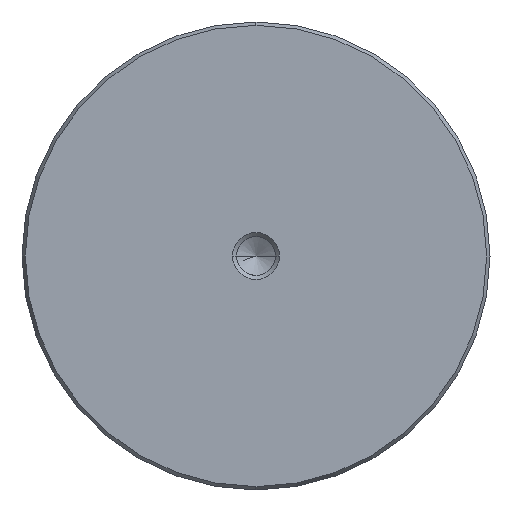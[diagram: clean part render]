
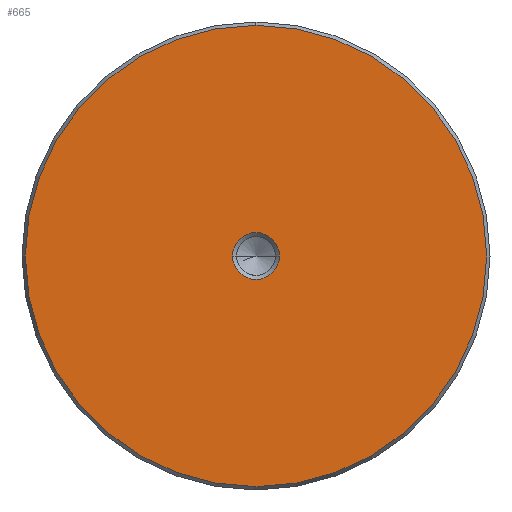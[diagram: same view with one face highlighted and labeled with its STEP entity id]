
A CAD part, left-side view. The second image highlights one B-rep face of the part: STEP entity #665.
In plain terms, the highlighted planar face has unit normal (-1, 0, 0).
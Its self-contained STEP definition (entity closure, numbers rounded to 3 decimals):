
#579=CARTESIAN_POINT('Vertex',(0.,0.,-39.423)) ;
#582=CARTESIAN_POINT('Axis2P3D Location',(0.,0.,0.)) ;
#586=CARTESIAN_POINT('Vertex',(0.,39.423,0.)) ;
#589=CARTESIAN_POINT('Axis2P3D Location',(0.,0.,0.)) ;
#593=CARTESIAN_POINT('Vertex',(0.,0.,39.423)) ;
#615=CARTESIAN_POINT('Axis2P3D Location',(0.,0.,0.)) ;
#619=CARTESIAN_POINT('Vertex',(0.,-39.423,0.)) ;
#622=CARTESIAN_POINT('Axis2P3D Location',(0.,0.,0.)) ;
#636=CARTESIAN_POINT('Axis2P3D Location',(0.,0.,0.)) ;
#647=CARTESIAN_POINT('Axis2P3D Location',(0.,0.,0.)) ;
#651=CARTESIAN_POINT('Vertex',(0.,4.,0.)) ;
#653=CARTESIAN_POINT('Vertex',(0.,-4.,0.)) ;
#656=CARTESIAN_POINT('Axis2P3D Location',(0.,0.,0.)) ;
#583=DIRECTION('Axis2P3D Direction',(1.,0.,-0.)) ;
#590=DIRECTION('Axis2P3D Direction',(1.,0.,-0.)) ;
#616=DIRECTION('Axis2P3D Direction',(1.,0.,-0.)) ;
#623=DIRECTION('Axis2P3D Direction',(1.,0.,-0.)) ;
#637=DIRECTION('Axis2P3D Direction',(1.,0.,-0.)) ;
#638=DIRECTION('Axis2P3D XDirection',(-0.,0.,-1.)) ;
#648=DIRECTION('Axis2P3D Direction',(1.,0.,-0.)) ;
#657=DIRECTION('Axis2P3D Direction',(1.,0.,-0.)) ;
#584=AXIS2_PLACEMENT_3D('Circle Axis2P3D',#582,#583,$) ;
#591=AXIS2_PLACEMENT_3D('Circle Axis2P3D',#589,#590,$) ;
#617=AXIS2_PLACEMENT_3D('Circle Axis2P3D',#615,#616,$) ;
#624=AXIS2_PLACEMENT_3D('Circle Axis2P3D',#622,#623,$) ;
#639=AXIS2_PLACEMENT_3D('Plane Axis2P3D',#636,#637,#638) ;
#649=AXIS2_PLACEMENT_3D('Circle Axis2P3D',#647,#648,$) ;
#658=AXIS2_PLACEMENT_3D('Circle Axis2P3D',#656,#657,$) ;
#642=ORIENTED_EDGE('',*,*,#588,.F.) ;
#643=ORIENTED_EDGE('',*,*,#626,.F.) ;
#644=ORIENTED_EDGE('',*,*,#621,.F.) ;
#645=ORIENTED_EDGE('',*,*,#595,.F.) ;
#662=ORIENTED_EDGE('',*,*,#655,.T.) ;
#663=ORIENTED_EDGE('',*,*,#660,.T.) ;
#664=FACE_BOUND('',#661,.T.) ;
#665=ADVANCED_FACE('720-80x450',(#646,#664),#640,.F.) ;
#585=CIRCLE('generated circle',#584,39.423) ;
#592=CIRCLE('generated circle',#591,39.423) ;
#618=CIRCLE('generated circle',#617,39.423) ;
#625=CIRCLE('generated circle',#624,39.423) ;
#650=CIRCLE('generated circle',#649,4.) ;
#659=CIRCLE('generated circle',#658,4.) ;
#588=EDGE_CURVE('',#580,#587,#585,.T.) ;
#595=EDGE_CURVE('',#587,#594,#592,.T.) ;
#621=EDGE_CURVE('',#594,#620,#618,.T.) ;
#626=EDGE_CURVE('',#620,#580,#625,.T.) ;
#655=EDGE_CURVE('',#652,#654,#650,.T.) ;
#660=EDGE_CURVE('',#654,#652,#659,.T.) ;
#641=EDGE_LOOP('',(#642,#643,#644,#645)) ;
#661=EDGE_LOOP('',(#662,#663)) ;
#646=FACE_OUTER_BOUND('',#641,.T.) ;
#640=PLANE('Plane',#639) ;
#580=VERTEX_POINT('',#579) ;
#587=VERTEX_POINT('',#586) ;
#594=VERTEX_POINT('',#593) ;
#620=VERTEX_POINT('',#619) ;
#652=VERTEX_POINT('',#651) ;
#654=VERTEX_POINT('',#653) ;
